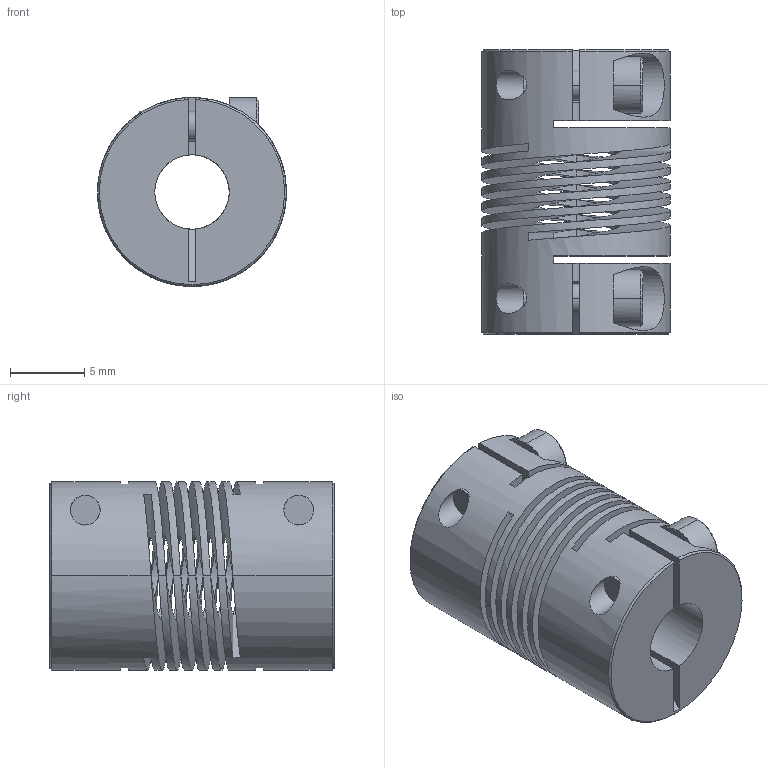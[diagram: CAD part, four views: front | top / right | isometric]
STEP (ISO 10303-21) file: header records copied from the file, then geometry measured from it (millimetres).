
FILE_DESCRIPTION((''),'2;1');
FILE_NAME('725_13','2006-12-05T',('Gary Melling'),(''),'PRO/ENGINEER BY PARAMETRIC TECHNOLOGY CORPORATION, 2006240','PRO/ENGINEER BY PARAMETRIC TECHNOLOGY CORPORATION, 2006240','');
FILE_SCHEMA(('CONFIG_CONTROL_DESIGN'));
Length unit declared in the file: millimetre
Products named in the file (1): 725_13
Bounding box: 12.7 x 19.1 x 12.7 mm (x, y, z)
Volume: 1582 mm3; surface area: 2744.9 mm2
Topology: 1 solids, 1 shells, 105 faces, 293 edges, 190 vertices
Faces by surface type: plane 52, cylinder 41, cone 6, bspline 6
Entity records: 5214 total; most frequent: CARTESIAN_POINT 2553, ORIENTED_EDGE 586, DIRECTION 487, EDGE_CURVE 293, VERTEX_POINT 190, AXIS2_PLACEMENT_3D 165, VECTOR 157, LINE 157
